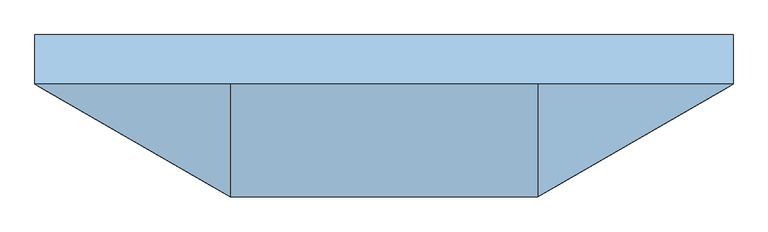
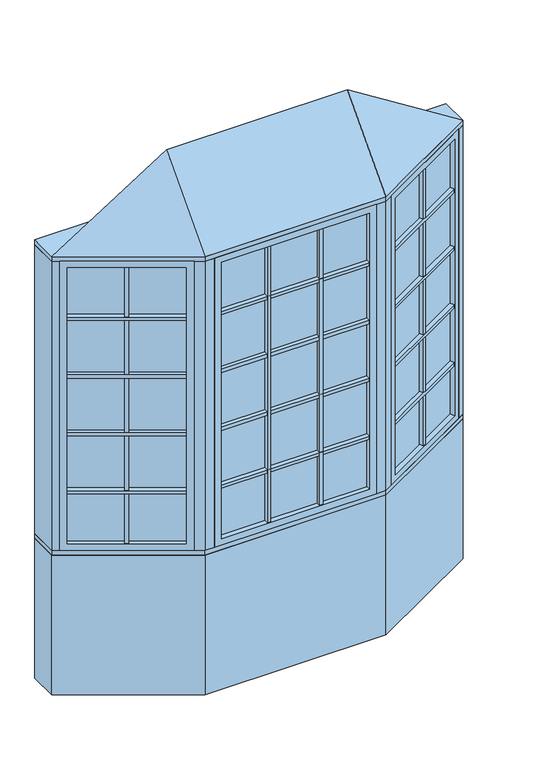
"""IFC4 building model written with IfcOpenShell, lengths in millimetres: window geometry, Pollard_Windows_Tudor Casement Bows and Bays : AML-BAY 30 AFR0616-10-600_GC."""

import ifcopenshell
import ifcopenshell.guid

model = None  # the IFC model being written
_history = None  # IfcOwnerHistory: only IFC2X3 demands one
_inside = {}  # id of a spatial element -> (the spatial element, [elements in it])
_under = {}  # id of a project, library or spatial element -> (it, [spatial elements below it])
_declared = {}  # id of a project -> (the project, [libraries it declares])
_typed = {}  # id of a type object -> (the type object, [elements of that type])
_made_of = {}  # id of a material, layer set ... -> (it, [elements and type objects made of it])


def new_model(schema):
    """Start an empty IFC model of exactly this schema.

    Asked for "IFC4X3", IfcOpenShell would pick the latest addendum, in which some entities
    have other attributes; the version numbers below select the first issue.
    IFC2X3 requires an IfcOwnerHistory on every rooted entity: one is made here for all.
    """
    global model, _history
    if schema == "IFC4X3":
        model = ifcopenshell.file(schema_version=(4, 3, 0, 0))
    else:
        model = ifcopenshell.file(schema=schema)
    _inside.clear()
    _under.clear()
    _declared.clear()
    _typed.clear()
    _made_of.clear()
    _history = None
    if model.schema == "IFC2X3":
        org = make("IfcOrganization", Name="unknown")
        user = make(
            "IfcPersonAndOrganization",
            ThePerson=make("IfcPerson", FamilyName="unknown"),
            TheOrganization=org,
        )
        app = make(
            "IfcApplication",
            ApplicationDeveloper=org,
            Version="unknown",
            ApplicationFullName="unknown",
            ApplicationIdentifier="unknown",
        )
        _history = make(
            "IfcOwnerHistory",
            OwningUser=user,
            OwningApplication=app,
            ChangeAction="ADDED",
            CreationDate=0,
        )
    return model


def make(cls, **values):
    """One entity of the class cls with the attributes given. An attribute that is None is left unset."""
    return model.create_entity(
        cls, **{name: value for name, value in values.items() if value is not None}
    )


def rooted(cls, **values):
    """An entity with a GlobalId (a new one), such as an element, a storey or a relation."""
    return make(cls, GlobalId=ifcopenshell.guid.new(), OwnerHistory=_history, **values)


def si_unit(unit_type, name, prefix=None):
    """IfcSIUnit, for example si_unit("LENGTHUNIT", "METRE", prefix="MILLI")."""
    return make("IfcSIUnit", UnitType=unit_type, Prefix=prefix, Name=name)


def assignment(units):
    """IfcUnitAssignment: the units of a project."""
    return None if units is None else make("IfcUnitAssignment", Units=units)


def point(xyz):
    """IfcCartesianPoint."""
    return None if xyz is None else make("IfcCartesianPoint", Coordinates=xyz)


def direction(xyz):
    """IfcDirection."""
    return None if xyz is None else make("IfcDirection", DirectionRatios=xyz)


def frame(location, z_axis=None, x_axis=None):
    """IfcAxis2Placement3D, a coordinate frame: its origin and axes. An axis left out is left unset."""
    return make(
        "IfcAxis2Placement3D",
        Location=point(location),
        Axis=direction(z_axis),
        RefDirection=direction(x_axis),
    )


def origin():
    """The frame at (0, 0, 0) with its axes left unset."""
    return frame((0.0, 0.0, 0.0))


def origin_with_axes():
    """The frame at (0, 0, 0) with the z axis (0, 0, 1) and the x axis (1, 0, 0) written out."""
    return frame((0.0, 0.0, 0.0), z_axis=(0.0, 0.0, 1.0), x_axis=(1.0, 0.0, 0.0))


def place(relative_to, where):
    """IfcLocalPlacement: puts the frame where relative to a parent placement (None: the world)."""
    return make(
        "IfcLocalPlacement", PlacementRelTo=relative_to, RelativePlacement=where
    )


def context(
    kind, dimensions, precision=None, world=None, true_north=None, identifier=None
):
    """IfcGeometricRepresentationContext, for example the 3D "Model" context."""
    return make(
        "IfcGeometricRepresentationContext",
        ContextIdentifier=identifier,
        ContextType=kind,
        CoordinateSpaceDimension=dimensions,
        Precision=precision,
        WorldCoordinateSystem=world,
        TrueNorth=true_north,
    )


def project(units=None, contexts=None):
    """IfcProject with its units and contexts."""
    return rooted(
        "IfcProject",
        Name="project",
        RepresentationContexts=contexts,
        UnitsInContext=assignment(units),
    )


def spatial(cls, under=None, at=None, **own):
    """A site, building, storey or space (cls), placed at a placement, below another one or the project."""
    s = rooted(cls, ObjectPlacement=at, **own)
    if under is not None:
        _under.setdefault(under.id(), (under, []))[1].append(s)
    return s


def polyline(points):
    """IfcPolyline through the points."""
    return make("IfcPolyline", Points=[point(p) for p in points])


def outline(outer, holes=None, kind="AREA"):
    """IfcArbitraryClosedProfileDef: a profile drawn as a closed curve; with holes, ...WithVoids."""
    if holes is None:
        return make("IfcArbitraryClosedProfileDef", ProfileType=kind, OuterCurve=outer)
    return make(
        "IfcArbitraryProfileDefWithVoids",
        ProfileType=kind,
        OuterCurve=outer,
        InnerCurves=holes,
    )


def extrude(swept, where, along, depth):
    """IfcExtrudedAreaSolid: the profile swept, set in the frame where, extruded along a direction by depth."""
    return make(
        "IfcExtrudedAreaSolid",
        SweptArea=swept,
        Position=where,
        ExtrudedDirection=direction(along),
        Depth=depth,
    )


def faces_of(points, faces, orient=None, outer=None):
    """IfcFace entities. A face is a list of loops; a loop is a list of indices into points, from 0.

    orient and outer hold one flag for each loop. By default every Orientation is true, the
    first loop of a face is its IfcFaceOuterBound and the others are IfcFaceBound.
    """
    made = []
    for i, loops in enumerate(faces):
        bounds = []
        for j, loop in enumerate(loops):
            is_outer = j == 0 if outer is None else outer[i][j]
            bounds.append(
                make(
                    "IfcFaceOuterBound" if is_outer else "IfcFaceBound",
                    Bound=make("IfcPolyLoop", Polygon=[points[k] for k in loop]),
                    Orientation=True if orient is None else orient[i][j],
                )
            )
        made.append(make("IfcFace", Bounds=bounds))
    return made


def faceted_brep(points, faces, orient=None, outer=None, voids=None):
    """IfcFacetedBrep: a solid bounded by flat faces; with voids (closed shells), ...WithVoids."""
    shared = [point(p) for p in points]
    hull = make("IfcClosedShell", CfsFaces=faces_of(shared, faces, orient, outer))
    if voids is None:
        return make("IfcFacetedBrep", Outer=hull)
    return make(
        "IfcFacetedBrepWithVoids",
        Outer=hull,
        Voids=[
            make(cls, CfsFaces=faces_of(shared, fs, o, b)) for cls, fs, o, b in voids
        ],
    )


def shape(context_of_items, identifier, shape_type, items):
    """IfcShapeRepresentation: the items that make up one representation, for example the "Body"."""
    return make(
        "IfcShapeRepresentation",
        ContextOfItems=context_of_items,
        RepresentationIdentifier=identifier,
        RepresentationType=shape_type,
        Items=items,
    )


def source(mapping_origin, context_of_items, identifier, shape_type, items):
    """IfcRepresentationMap: a shape defined once, which mapped items show again and again."""
    return make(
        "IfcRepresentationMap",
        MappingOrigin=mapping_origin,
        MappedRepresentation=shape(context_of_items, identifier, shape_type, items),
    )


def transform(
    local_origin,
    x_axis=None,
    y_axis=None,
    z_axis=None,
    scale=None,
    scale2=None,
    scale3=None,
    uniform=True,
):
    """IfcCartesianTransformationOperator3D, or its non-uniform kind. x_axis, y_axis, z_axis: its Axis1, 2, 3."""
    if uniform:
        return make(
            "IfcCartesianTransformationOperator3D",
            Axis1=direction(x_axis),
            Axis2=direction(y_axis),
            LocalOrigin=point(local_origin),
            Scale=scale,
            Axis3=direction(z_axis),
        )
    return make(
        "IfcCartesianTransformationOperator3DnonUniform",
        Axis1=direction(x_axis),
        Axis2=direction(y_axis),
        LocalOrigin=point(local_origin),
        Scale=scale,
        Axis3=direction(z_axis),
        Scale2=scale2,
        Scale3=scale3,
    )


def mapped(mapping_source, mapping_target):
    """IfcMappedItem: shows the shape of a source again, moved by a transform."""
    return make(
        "IfcMappedItem", MappingSource=mapping_source, MappingTarget=mapping_target
    )


def made_of(thing, what):
    """Note that an element or type object is made of a material, layer set ...; save() writes the relation."""
    if what is not None:
        _made_of.setdefault(what.id(), (what, []))[1].append(thing)
    return thing


def element(
    cls,
    number,
    at=None,
    inside=None,
    cuts=None,
    type_object=None,
    material=None,
    context=None,
    identifier="Body",
    shape_type=None,
    held_by="IfcProductDefinitionShape",
    body=None,
    shapes=None,
    **own,
):
    """One element of the class cls, such as IfcWall. Its Tag is "e" and its number.

    at: its placement. inside: the storey or other place that contains it. cuts: it is an
    opening in that element (IfcRelVoidsElement). A single representation is given by context,
    identifier, shape_type and body (its items); several are given by shapes. held_by: the class
    of the entity that holds the representations. save() writes the other relations.
    """
    e = rooted(cls, Tag="e%d" % number, ObjectPlacement=at, **own)
    if body is not None:
        shapes = [shape(context, identifier, shape_type, body)]
    if shapes is not None:
        e.Representation = make(held_by, Representations=shapes)
    if inside is not None:
        _inside.setdefault(inside.id(), (inside, []))[1].append(e)
    if cuts is not None:
        rooted(
            "IfcRelVoidsElement", RelatingBuildingElement=cuts, RelatedOpeningElement=e
        )
    if type_object is not None:
        _typed.setdefault(type_object.id(), (type_object, []))[1].append(e)
    return made_of(e, material)


def aggregate(whole, parts):
    """IfcRelAggregates: a whole, such as a stair, and the parts it consists of."""
    return rooted("IfcRelAggregates", RelatingObject=whole, RelatedObjects=parts)


def save(model, path):
    """Write the relations noted so far, then the file.

    IfcRelAggregates (storeys below a building ...), IfcRelContainedInSpatialStructure (elements
    in a storey), IfcRelDefinesByType, IfcRelAssociatesMaterial and IfcRelDeclares: one each for
    every whole, place, type object, material and project.
    """
    for whole, parts in _under.values():
        aggregate(whole, parts)
    for where, things in _inside.values():
        rooted(
            "IfcRelContainedInSpatialStructure",
            RelatedElements=things,
            RelatingStructure=where,
        )
    for kind, things in _typed.values():
        rooted("IfcRelDefinesByType", RelatedObjects=things, RelatingType=kind)
    for what, things in _made_of.values():
        rooted("IfcRelAssociatesMaterial", RelatedObjects=things, RelatingMaterial=what)
    for by, libraries in _declared.values():
        rooted("IfcRelDeclares", RelatingContext=by, RelatedDefinitions=libraries)
    model.write(path)


def window_315284a6(model_context):
    return source(origin(), model_context, "Body", "SolidModel", [
        extrude(outline(polyline([(546.881999, -376.6297343), (535.881999, -357.5771754), (1002.1135794, -88.3982469), (1013.1135794, -107.4508058), (546.881999, -376.6297343)])), frame((0.0, 0.0, 1110.998), z_axis=(0.0, 0.0, 1.0), x_axis=(1.0, 0.0, 0.0)), (0.0, 0.0, 1.0), 18.0),
        extrude(outline(polyline([(533.341999, -353.1777664), (522.341999, -334.1252075), (988.5735794, -64.946279), (999.5735794, -83.9988379), (533.341999, -353.1777664)])), frame((0.0, 0.0, 1110.998), z_axis=(0.0, 0.0, 1.0), x_axis=(1.0, 0.0, 0.0)), (0.0, 0.0, 1.0), 18.0),
        extrude(outline(polyline([(546.881999, -376.6297343), (535.881999, -357.5771754), (1002.1135794, -88.3982469), (1013.1135794, -107.4508058), (546.881999, -376.6297343)])), frame((0.0, 0.0, 1430.998), z_axis=(0.0, 0.0, 1.0), x_axis=(1.0, 0.0, 0.0)), (0.0, 0.0, 1.0), 18.0),
        extrude(outline(polyline([(533.341999, -353.1777664), (522.341999, -334.1252075), (988.5735794, -64.946279), (999.5735794, -83.9988379), (533.341999, -353.1777664)])), frame((0.0, 0.0, 1430.998), z_axis=(0.0, 0.0, 1.0), x_axis=(1.0, 0.0, 0.0)), (0.0, 0.0, 1.0), 18.0),
        extrude(outline(polyline([(546.881999, -376.6297343), (535.881999, -357.5771754), (1002.1135794, -88.3982469), (1013.1135794, -107.4508058), (546.881999, -376.6297343)])), frame((0.0, 0.0, 1750.998), z_axis=(0.0, 0.0, 1.0), x_axis=(1.0, 0.0, 0.0)), (0.0, 0.0, 1.0), 18.0),
        extrude(outline(polyline([(533.341999, -353.1777664), (522.341999, -334.1252075), (988.5735794, -64.946279), (999.5735794, -83.9988379), (533.341999, -353.1777664)])), frame((0.0, 0.0, 1750.998), z_axis=(0.0, 0.0, 1.0), x_axis=(1.0, 0.0, 0.0)), (0.0, 0.0, 1.0), 18.0),
        extrude(outline(polyline([(546.881999, -376.6297343), (535.881999, -357.5771754), (1002.1135794, -88.3982469), (1013.1135794, -107.4508058), (546.881999, -376.6297343)])), frame((0.0, 0.0, 2070.998), z_axis=(0.0, 0.0, 1.0), x_axis=(1.0, 0.0, 0.0)), (0.0, 0.0, 1.0), 18.0),
        extrude(outline(polyline([(533.341999, -353.1777664), (522.341999, -334.1252075), (988.5735794, -64.946279), (999.5735794, -83.9988379), (533.341999, -353.1777664)])), frame((0.0, 0.0, 2070.998), z_axis=(0.0, 0.0, 1.0), x_axis=(1.0, 0.0, 0.0)), (0.0, 0.0, 1.0), 18.0),
        extrude(outline(polyline([(776.7920178, -218.4877112), (787.7920178, -237.5402701), (772.2035606, -246.5402701), (761.2035606, -227.4877112), (776.7920178, -218.4877112)])), frame((0.0, 0.0, 835.8628), z_axis=(0.0, 0.0, 1.0), x_axis=(1.0, 0.0, 0.0)), (0.0, 0.0, 1.0), 1528.2704),
        extrude(outline(polyline([(774.2520178, -214.0883021), (758.6635606, -223.0883021), (747.6635606, -204.0357432), (763.2520178, -195.0357432), (774.2520178, -214.0883021)])), frame((0.0, 0.0, 835.8628), z_axis=(0.0, 0.0, 1.0), x_axis=(1.0, 0.0, 0.0)), (0.0, 0.0, 1.0), 1528.2704),
        extrude(outline(polyline([(1013.112102, -82.0482469), (524.8834764, -363.9271754), (522.3434764, -359.5277664), (1010.572102, -77.6488379), (1013.112102, -82.0482469)])), frame((0.0, 0.0, 823.1628), z_axis=(0.0, 0.0, 1.0), x_axis=(1.0, 0.0, 0.0)), (0.0, 0.0, 1.0), 1553.6704),
        faceted_brep([(1002.1135794, -88.3982469, 835.8628), (1014.8135794, -110.3952922, 835.8628), (1014.8135794, -110.3952922, 2364.1332), (1002.1135794, -88.3982469, 2364.1332), (1010.572102, -77.6488379, 823.1628), (1013.112102, -82.0482469, 823.1628), (1013.112102, -82.0482469, 2376.8332), (1010.572102, -77.6488379, 2376.8332), (986.8735794, -62.0017926, 835.8628), (999.5735794, -83.9988379, 835.8628), (999.5735794, -83.9988379, 2364.1332), (986.8735794, -62.0017926, 2364.1332), (1045.8734073, -92.4628922, 799.998), (1017.9334073, -44.0693926, 799.998), (1017.9334073, -44.0693926, 2399.998), (1045.8734073, -92.4628922, 2399.998), (548.581999, -379.5742207, 2364.1332), (535.881999, -357.5771754, 2364.1332), (524.8834764, -363.9271754, 2376.8332), (522.3434764, -359.5277664, 2376.8332), (533.341999, -353.1777664, 2364.1332), (520.641999, -331.1807211, 2364.1332), (489.5821711, -349.1131211, 2399.998), (517.5221711, -397.5066207, 2399.998), (548.581999, -379.5742207, 835.8628), (535.881999, -357.5771754, 835.8628), (524.8834764, -363.9271754, 823.1628), (522.3434764, -359.5277664, 823.1628), (533.341999, -353.1777664, 835.8628), (520.641999, -331.1807211, 835.8628), (489.5821711, -349.1131211, 799.998), (517.5221711, -397.5066207, 799.998)], [[[0, 1, 2, 3]], [[4, 5, 6, 7]], [[8, 9, 10, 11]], [[12, 13, 14, 15]], [[3, 2, 16, 17]], [[7, 6, 18, 19]], [[11, 10, 20, 21]], [[15, 14, 22, 23]], [[17, 16, 24, 25]], [[19, 18, 26, 27]], [[21, 20, 28, 29]], [[23, 22, 30, 31]], [[25, 24, 1, 0]], [[5, 26, 18, 6], [3, 17, 25, 0]], [[27, 26, 5, 4]], [[7, 19, 27, 4], [9, 28, 20, 10]], [[29, 28, 9, 8]], [[13, 30, 22, 14], [11, 21, 29, 8]], [[31, 30, 13, 12]], [[15, 23, 31, 12], [1, 24, 16, 2]]]),
        extrude(outline(polyline([(145.6855003, -397.1066207), (145.6855003, -419.1066207), (127.6855003, -419.1066207), (127.6855003, -397.1066207), (145.6855003, -397.1066207)])), frame((0.0, 0.0, 835.8628), z_axis=(0.0, 0.0, 1.0), x_axis=(1.0, 0.0, 0.0)), (0.0, 0.0, 1.0), 1528.2704),
        extrude(outline(polyline([(145.6855003, -392.0266207), (127.6855003, -392.0266207), (127.6855003, -370.0266207), (145.6855003, -370.0266207), (145.6855003, -392.0266207)])), frame((0.0, 0.0, 835.8628), z_axis=(0.0, 0.0, 1.0), x_axis=(1.0, 0.0, 0.0)), (0.0, 0.0, 1.0), 1528.2704),
        extrude(outline(polyline([(-127.6855003, -397.1066207), (-127.6855003, -419.1066207), (-145.6855003, -419.1066207), (-145.6855003, -397.1066207), (-127.6855003, -397.1066207)])), frame((0.0, 0.0, 835.8628), z_axis=(0.0, 0.0, 1.0), x_axis=(1.0, 0.0, 0.0)), (0.0, 0.0, 1.0), 1528.2704),
        extrude(outline(polyline([(-127.6855003, -392.0266207), (-145.6855003, -392.0266207), (-145.6855003, -370.0266207), (-127.6855003, -370.0266207), (-127.6855003, -392.0266207)])), frame((0.0, 0.0, 835.8628), z_axis=(0.0, 0.0, 1.0), x_axis=(1.0, 0.0, 0.0)), (0.0, 0.0, 1.0), 1528.2704),
        extrude(outline(polyline([(-388.3561009, -419.1066207), (-388.3561009, -397.1066207), (388.3561009, -397.1066207), (388.3561009, -419.1066207), (-388.3561009, -419.1066207)])), frame((0.0, 0.0, 1110.998), z_axis=(0.0, 0.0, 1.0), x_axis=(1.0, 0.0, 0.0)), (0.0, 0.0, 1.0), 18.0),
        extrude(outline(polyline([(-388.3561009, -392.0266207), (-388.3561009, -370.0266207), (388.3561009, -370.0266207), (388.3561009, -392.0266207), (-388.3561009, -392.0266207)])), frame((0.0, 0.0, 1110.998), z_axis=(0.0, 0.0, 1.0), x_axis=(1.0, 0.0, 0.0)), (0.0, 0.0, 1.0), 18.0),
        extrude(outline(polyline([(-388.3561009, -419.1066207), (-388.3561009, -397.1066207), (388.3561009, -397.1066207), (388.3561009, -419.1066207), (-388.3561009, -419.1066207)])), frame((0.0, 0.0, 1430.998), z_axis=(0.0, 0.0, 1.0), x_axis=(1.0, 0.0, 0.0)), (0.0, 0.0, 1.0), 18.0),
        extrude(outline(polyline([(-388.3561009, -392.0266207), (-388.3561009, -370.0266207), (388.3561009, -370.0266207), (388.3561009, -392.0266207), (-388.3561009, -392.0266207)])), frame((0.0, 0.0, 1430.998), z_axis=(0.0, 0.0, 1.0), x_axis=(1.0, 0.0, 0.0)), (0.0, 0.0, 1.0), 18.0),
        extrude(outline(polyline([(-388.3561009, -419.1066207), (-388.3561009, -397.1066207), (388.3561009, -397.1066207), (388.3561009, -419.1066207), (-388.3561009, -419.1066207)])), frame((0.0, 0.0, 1750.998), z_axis=(0.0, 0.0, 1.0), x_axis=(1.0, 0.0, 0.0)), (0.0, 0.0, 1.0), 18.0),
        extrude(outline(polyline([(-388.3561009, -392.0266207), (-388.3561009, -370.0266207), (388.3561009, -370.0266207), (388.3561009, -392.0266207), (-388.3561009, -392.0266207)])), frame((0.0, 0.0, 1750.998), z_axis=(0.0, 0.0, 1.0), x_axis=(1.0, 0.0, 0.0)), (0.0, 0.0, 1.0), 18.0),
        extrude(outline(polyline([(-1013.1135794, -107.4508058), (-1002.1135794, -88.3982469), (-535.881999, -357.5771754), (-546.881999, -376.6297343), (-1013.1135794, -107.4508058)])), frame((0.0, 0.0, 1110.998), z_axis=(0.0, 0.0, 1.0), x_axis=(1.0, 0.0, 0.0)), (0.0, 0.0, 1.0), 18.0),
        extrude(outline(polyline([(-999.5735794, -83.9988379), (-988.5735794, -64.946279), (-522.341999, -334.1252075), (-533.341999, -353.1777664), (-999.5735794, -83.9988379)])), frame((0.0, 0.0, 1110.998), z_axis=(0.0, 0.0, 1.0), x_axis=(1.0, 0.0, 0.0)), (0.0, 0.0, 1.0), 18.0),
        extrude(outline(polyline([(-1013.1135794, -107.4508058), (-1002.1135794, -88.3982469), (-535.881999, -357.5771754), (-546.881999, -376.6297343), (-1013.1135794, -107.4508058)])), frame((0.0, 0.0, 1430.998), z_axis=(0.0, 0.0, 1.0), x_axis=(1.0, 0.0, 0.0)), (0.0, 0.0, 1.0), 18.0),
        extrude(outline(polyline([(-999.5735794, -83.9988379), (-988.5735794, -64.946279), (-522.341999, -334.1252075), (-533.341999, -353.1777664), (-999.5735794, -83.9988379)])), frame((0.0, 0.0, 1430.998), z_axis=(0.0, 0.0, 1.0), x_axis=(1.0, 0.0, 0.0)), (0.0, 0.0, 1.0), 18.0),
        extrude(outline(polyline([(-1013.1135794, -107.4508058), (-1002.1135794, -88.3982469), (-535.881999, -357.5771754), (-546.881999, -376.6297343), (-1013.1135794, -107.4508058)])), frame((0.0, 0.0, 1750.998), z_axis=(0.0, 0.0, 1.0), x_axis=(1.0, 0.0, 0.0)), (0.0, 0.0, 1.0), 18.0),
        extrude(outline(polyline([(-999.5735794, -83.9988379), (-988.5735794, -64.946279), (-522.341999, -334.1252075), (-533.341999, -353.1777664), (-999.5735794, -83.9988379)])), frame((0.0, 0.0, 1750.998), z_axis=(0.0, 0.0, 1.0), x_axis=(1.0, 0.0, 0.0)), (0.0, 0.0, 1.0), 18.0),
        extrude(outline(polyline([(-1013.1135794, -107.4508058), (-1002.1135794, -88.3982469), (-535.881999, -357.5771754), (-546.881999, -376.6297343), (-1013.1135794, -107.4508058)])), frame((0.0, 0.0, 2070.998), z_axis=(0.0, 0.0, 1.0), x_axis=(1.0, 0.0, 0.0)), (0.0, 0.0, 1.0), 18.0),
        extrude(outline(polyline([(-999.5735794, -83.9988379), (-988.5735794, -64.946279), (-522.341999, -334.1252075), (-533.341999, -353.1777664), (-999.5735794, -83.9988379)])), frame((0.0, 0.0, 2070.998), z_axis=(0.0, 0.0, 1.0), x_axis=(1.0, 0.0, 0.0)), (0.0, 0.0, 1.0), 18.0),
        extrude(outline(polyline([(-388.3561009, -419.1066207), (-388.3561009, -397.1066207), (388.3561009, -397.1066207), (388.3561009, -419.1066207), (-388.3561009, -419.1066207)])), frame((0.0, 0.0, 2070.998), z_axis=(0.0, 0.0, 1.0), x_axis=(1.0, 0.0, 0.0)), (0.0, 0.0, 1.0), 18.0),
        extrude(outline(polyline([(-388.3561009, -392.0266207), (-388.3561009, -370.0266207), (388.3561009, -370.0266207), (388.3561009, -392.0266207), (-388.3561009, -392.0266207)])), frame((0.0, 0.0, 2070.998), z_axis=(0.0, 0.0, 1.0), x_axis=(1.0, 0.0, 0.0)), (0.0, 0.0, 1.0), 18.0),
        extrude(outline(polyline([(-761.2035606, -227.4877112), (-772.2035606, -246.5402701), (-787.7920178, -237.5402701), (-776.7920178, -218.4877112), (-761.2035606, -227.4877112)])), frame((0.0, 0.0, 835.8628), z_axis=(0.0, 0.0, 1.0), x_axis=(1.0, 0.0, 0.0)), (0.0, 0.0, 1.0), 1528.2704),
        extrude(outline(polyline([(-758.6635606, -223.0883021), (-774.2520178, -214.0883021), (-763.2520178, -195.0357432), (-747.6635606, -204.0357432), (-758.6635606, -223.0883021)])), frame((0.0, 0.0, 835.8628), z_axis=(0.0, 0.0, 1.0), x_axis=(1.0, 0.0, 0.0)), (0.0, 0.0, 1.0), 1528.2704),
        extrude(outline(polyline([(-524.8834764, -363.9271754), (-1013.112102, -82.0482469), (-1010.572102, -77.6488379), (-522.3434764, -359.5277664), (-524.8834764, -363.9271754)])), frame((0.0, 0.0, 823.1628), z_axis=(0.0, 0.0, 1.0), x_axis=(1.0, 0.0, 0.0)), (0.0, 0.0, 1.0), 1553.6704),
        faceted_brep([(-533.341999, -353.1777664, 2364.1332), (-520.641999, -331.1807211, 2364.1332), (-520.641999, -331.1807211, 835.8628), (-533.341999, -353.1777664, 835.8628), (-524.8834764, -363.9271754, 2376.8332), (-522.3434764, -359.5277664, 2376.8332), (-522.3434764, -359.5277664, 823.1628), (-524.8834764, -363.9271754, 823.1628), (-548.581999, -379.5742207, 2364.1332), (-535.881999, -357.5771754, 2364.1332), (-535.881999, -357.5771754, 835.8628), (-548.581999, -379.5742207, 835.8628), (-489.5821711, -349.1131211, 2399.998), (-517.5221711, -397.5066207, 2399.998), (-517.5221711, -397.5066207, 799.998), (-489.5821711, -349.1131211, 799.998), (-986.8735794, -62.0017926, 835.8628), (-999.5735794, -83.9988379, 835.8628), (-1010.572102, -77.6488379, 823.1628), (-1013.112102, -82.0482469, 823.1628), (-1002.1135794, -88.3982469, 835.8628), (-1014.8135794, -110.3952922, 835.8628), (-1045.8734073, -92.4628922, 799.998), (-1017.9334073, -44.0693926, 799.998), (-986.8735794, -62.0017926, 2364.1332), (-999.5735794, -83.9988379, 2364.1332), (-1010.572102, -77.6488379, 2376.8332), (-1013.112102, -82.0482469, 2376.8332), (-1002.1135794, -88.3982469, 2364.1332), (-1014.8135794, -110.3952922, 2364.1332), (-1045.8734073, -92.4628922, 2399.998), (-1017.9334073, -44.0693926, 2399.998)], [[[0, 1, 2, 3]], [[4, 5, 6, 7]], [[8, 9, 10, 11]], [[12, 13, 14, 15]], [[3, 2, 16, 17]], [[7, 6, 18, 19]], [[11, 10, 20, 21]], [[15, 14, 22, 23]], [[17, 16, 24, 25]], [[19, 18, 26, 27]], [[21, 20, 28, 29]], [[23, 22, 30, 31]], [[15, 23, 31, 12], [1, 24, 16, 2]], [[25, 24, 1, 0]], [[5, 26, 18, 6], [3, 17, 25, 0]], [[27, 26, 5, 4]], [[7, 19, 27, 4], [9, 28, 20, 10]], [[29, 28, 9, 8]], [[13, 30, 22, 14], [11, 21, 29, 8]], [[31, 30, 13, 12]]]),
        extrude(outline(polyline([(401.0561009, -397.1066207), (-401.0561009, -397.1066207), (-401.0561009, -392.0266207), (401.0561009, -392.0266207), (401.0561009, -397.1066207)])), frame((0.0, 0.0, 823.1628), z_axis=(0.0, 0.0, 1.0), x_axis=(1.0, 0.0, 0.0)), (0.0, 0.0, 1.0), 1553.6704),
        faceted_brep([(388.3561009, -397.1066207, 835.8628), (388.3561009, -422.5066207, 835.8628), (388.3561009, -422.5066207, 2364.1332), (388.3561009, -397.1066207, 2364.1332), (401.0561009, -392.0266207, 823.1628), (401.0561009, -397.1066207, 823.1628), (401.0561009, -397.1066207, 2376.8332), (401.0561009, -392.0266207, 2376.8332), (388.3561009, -366.6266207, 835.8628), (388.3561009, -392.0266207, 835.8628), (388.3561009, -392.0266207, 2364.1332), (388.3561009, -366.6266207, 2364.1332), (424.2209009, -422.5066207, 799.998), (424.2209009, -366.6266207, 799.998), (424.2209009, -366.6266207, 2399.998), (424.2209009, -422.5066207, 2399.998), (-388.3561009, -422.5066207, 2364.1332), (-388.3561009, -397.1066207, 2364.1332), (-401.0561009, -397.1066207, 2376.8332), (-401.0561009, -392.0266207, 2376.8332), (-388.3561009, -392.0266207, 2364.1332), (-388.3561009, -366.6266207, 2364.1332), (-424.2209009, -366.6266207, 2399.998), (-424.2209009, -422.5066207, 2399.998), (-388.3561009, -422.5066207, 835.8628), (-388.3561009, -397.1066207, 835.8628), (-401.0561009, -397.1066207, 823.1628), (-401.0561009, -392.0266207, 823.1628), (-388.3561009, -392.0266207, 835.8628), (-388.3561009, -366.6266207, 835.8628), (-424.2209009, -366.6266207, 799.998), (-424.2209009, -422.5066207, 799.998)], [[[0, 1, 2, 3]], [[4, 5, 6, 7]], [[8, 9, 10, 11]], [[12, 13, 14, 15]], [[3, 2, 16, 17]], [[7, 6, 18, 19]], [[11, 10, 20, 21]], [[15, 14, 22, 23]], [[17, 16, 24, 25]], [[19, 18, 26, 27]], [[21, 20, 28, 29]], [[23, 22, 30, 31]], [[15, 23, 31, 12], [1, 24, 16, 2]], [[25, 24, 1, 0]], [[5, 26, 18, 6], [3, 17, 25, 0]], [[27, 26, 5, 4]], [[7, 19, 27, 4], [9, 28, 20, 10]], [[29, 28, 9, 8]], [[13, 30, 22, 14], [11, 21, 29, 8]], [[31, 30, 13, 12]]]),
        faceted_brep([(1076.5, -74.7806207, 2425.398), (474.2209009, -422.5066207, 2425.398), (-474.2209009, -422.5066207, 2425.398), (-1076.5, -74.7806207, 2425.398), (-474.2209009, -74.7806207, 2806.398), (474.2209009, -74.7806207, 2806.398)], [[[0, 1, 2, 3]], [[3, 2, 4]], [[2, 1, 5, 4]], [[1, 0, 5]], [[0, 3, 4, 5]]]),
        extrude(outline(polyline([(-1076.5, 77.6193793), (1076.5, 77.6193793), (1076.5, -74.7806207), (474.2209009, -422.5066207), (-474.2209009, -422.5066207), (-1076.5, -74.7806207), (-1076.5, 77.6193793)])), frame((0.0, 0.0, 2399.998), z_axis=(0.0, 0.0, 1.0), x_axis=(1.0, 0.0, 0.0)), (0.0, 0.0, 1.0), 25.4),
        extrude(outline(polyline([(-1076.5, -74.7806207), (-1076.5, 77.6193793), (-1035.6645431, 77.6193793), (-1035.6645431, -74.7806207), (-1045.8734073, -92.4628922), (-1076.5, -74.7806207)])), frame((0.0, 0.0, 799.998), z_axis=(0.0, 0.0, 1.0), x_axis=(1.0, 0.0, 0.0)), (0.0, 0.0, 1.0), 1600.0),
        extrude(outline(polyline([(1076.5, 77.6193793), (1076.5, -74.7806207), (1045.8734073, -92.4628922), (1035.6645431, -74.7806207), (1035.6645431, 77.6193793), (1076.5, 77.6193793)])), frame((0.0, 0.0, 799.998), z_axis=(0.0, 0.0, 1.0), x_axis=(1.0, 0.0, 0.0)), (0.0, 0.0, 1.0), 1600.0),
        extrude(outline(polyline([(474.2209009, -422.5066207), (424.2209009, -422.5066207), (424.2209009, -372.5066207), (460.8234413, -372.5066207), (492.5221711, -354.2053505), (517.5221711, -397.5066207), (474.2209009, -422.5066207)])), frame((0.0, 0.0, 799.998), z_axis=(0.0, 0.0, 1.0), x_axis=(1.0, 0.0, 0.0)), (0.0, 0.0, 1.0), 1600.0),
        extrude(outline(polyline([(-474.2209009, -422.5066207), (-517.5221711, -397.5066207), (-492.5221711, -354.2053505), (-460.8234413, -372.5066207), (-424.2209009, -372.5066207), (-424.2209009, -422.5066207), (-474.2209009, -422.5066207)])), frame((0.0, 0.0, 799.998), z_axis=(0.0, 0.0, 1.0), x_axis=(1.0, 0.0, 0.0)), (0.0, 0.0, 1.0), 1600.0),
        extrude(outline(polyline([(-474.2209009, -422.5066207), (-1076.5, -74.7806207), (-1076.5, 77.6193793), (-1035.6645431, 77.6193793), (-433.385444, -270.1066207), (433.385444, -270.1066207), (1035.6645431, 77.6193793), (1076.5, 77.6193793), (1076.5, -74.7806207), (474.2209009, -422.5066207), (-474.2209009, -422.5066207)])), frame((0.0, 0.0, 774.598), z_axis=(0.0, 0.0, 1.0), x_axis=(1.0, 0.0, 0.0)), (0.0, 0.0, 1.0), 25.4),
        extrude(outline(polyline([(-1076.5, -74.7806207), (-1076.5, 77.6193793), (-1035.6645431, 77.6193793), (-433.385444, -270.1066207), (433.385444, -270.1066207), (1035.6645431, 77.6193793), (1076.5, 77.6193793), (1076.5, -74.7806207), (474.2209009, -422.5066207), (-474.2209009, -422.5066207), (-1076.5, -74.7806207)])), origin_with_axes(), (0.0, 0.0, 1.0), 774.598),
    ])


if __name__ == "__main__":
    model = new_model("IFC4")
    model_context = context("Model", 3, world=origin())
    ifc_project = project(units=[si_unit("LENGTHUNIT", "METRE", prefix="MILLI")], contexts=[model_context])
    site = spatial("IfcSite", under=ifc_project)
    building = spatial("IfcBuilding", under=site)
    placement = place(None, origin())
    window_shape = window_315284a6(model_context)
    element("IfcWindow", 1, ObjectType="Pollard_Windows_Tudor Casement Bows and Bays : AML-BAY 30 AFR0616-10-600_GC", at=placement, inside=building, context=model_context, shape_type="MappedRepresentation", body=[
        mapped(window_shape, transform((0.0, 0.0, 0.0), x_axis=(1.0, 0.0, 0.0), y_axis=(0.0, 1.0, 0.0), z_axis=(0.0, 0.0, 1.0))),
    ])
    save(model, "model.ifc")
